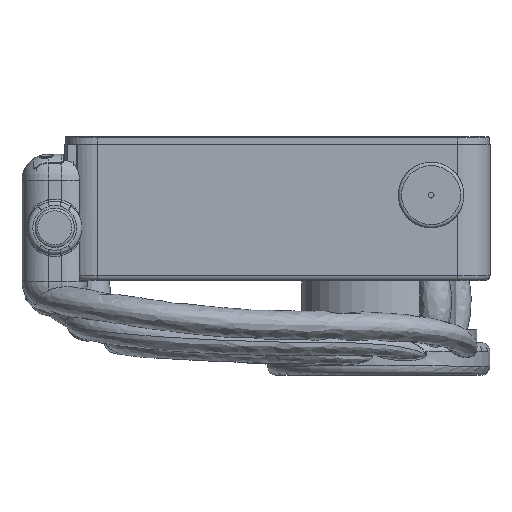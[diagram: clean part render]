
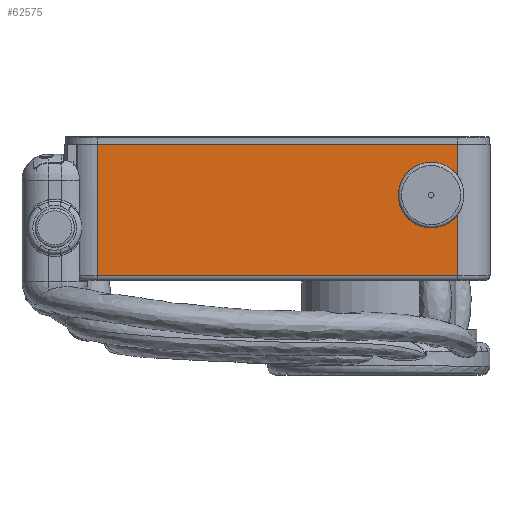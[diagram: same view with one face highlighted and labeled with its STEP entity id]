
A CAD part, top view. The second image highlights one B-rep face of the part: STEP entity #62575.
In plain terms, the highlighted planar face has unit normal (0, 0, 1).
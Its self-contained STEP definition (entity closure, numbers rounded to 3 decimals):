
#62575 = ADVANCED_FACE('',(#62576,#62695),#62590,.F.);
#62576 = FACE_BOUND('',#62577,.F.);
#62577 = EDGE_LOOP('',(#62578,#62613,#62641,#62669));
#62578 = ORIENTED_EDGE('',*,*,#62579,.T.);
#62579 = EDGE_CURVE('',#62580,#62582,#62584,.T.);
#62580 = VERTEX_POINT('',#62581);
#62581 = CARTESIAN_POINT('',(-55.,-14.6,83.));
#62582 = VERTEX_POINT('',#62583);
#62583 = CARTESIAN_POINT('',(-55.,25.5,83.));
#62584 = SURFACE_CURVE('',#62585,(#62589,#62601),.PCURVE_S1.);
#62585 = LINE('',#62586,#62587);
#62586 = CARTESIAN_POINT('',(-55.,-16.,83.));
#62587 = VECTOR('',#62588,1.);
#62588 = DIRECTION('',(0.,1.,0.));
#62589 = PCURVE('',#62590,#62595);
#62590 = PLANE('',#62591);
#62591 = AXIS2_PLACEMENT_3D('',#62592,#62593,#62594);
#62592 = CARTESIAN_POINT('',(-65.,-16.,83.));
#62593 = DIRECTION('',(0.,0.,-1.));
#62594 = DIRECTION('',(1.,0.,0.));
#62595 = DEFINITIONAL_REPRESENTATION('',(#62596),#62600);
#62596 = LINE('',#62597,#62598);
#62597 = CARTESIAN_POINT('',(10.,0.));
#62598 = VECTOR('',#62599,1.);
#62599 = DIRECTION('',(0.,-1.));
#62600 = ( GEOMETRIC_REPRESENTATION_CONTEXT(2) 
PARAMETRIC_REPRESENTATION_CONTEXT() REPRESENTATION_CONTEXT('2D SPACE',''
  ) );
#62601 = PCURVE('',#62602,#62607);
#62602 = CYLINDRICAL_SURFACE('',#62603,10.);
#62603 = AXIS2_PLACEMENT_3D('',#62604,#62605,#62606);
#62604 = CARTESIAN_POINT('',(-55.,-16.,73.));
#62605 = DIRECTION('',(0.,1.,0.));
#62606 = DIRECTION('',(0.,-0.,1.));
#62607 = DEFINITIONAL_REPRESENTATION('',(#62608),#62612);
#62608 = LINE('',#62609,#62610);
#62609 = CARTESIAN_POINT('',(6.283,0.));
#62610 = VECTOR('',#62611,1.);
#62611 = DIRECTION('',(-0.,1.));
#62612 = ( GEOMETRIC_REPRESENTATION_CONTEXT(2) 
PARAMETRIC_REPRESENTATION_CONTEXT() REPRESENTATION_CONTEXT('2D SPACE',''
  ) );
#62613 = ORIENTED_EDGE('',*,*,#62614,.T.);
#62614 = EDGE_CURVE('',#62582,#62615,#62617,.T.);
#62615 = VERTEX_POINT('',#62616);
#62616 = CARTESIAN_POINT('',(55.,25.5,83.));
#62617 = SURFACE_CURVE('',#62618,(#62622,#62629),.PCURVE_S1.);
#62618 = LINE('',#62619,#62620);
#62619 = CARTESIAN_POINT('',(-65.,25.5,83.));
#62620 = VECTOR('',#62621,1.);
#62621 = DIRECTION('',(1.,0.,0.));
#62622 = PCURVE('',#62590,#62623);
#62623 = DEFINITIONAL_REPRESENTATION('',(#62624),#62628);
#62624 = LINE('',#62625,#62626);
#62625 = CARTESIAN_POINT('',(0.,-41.5));
#62626 = VECTOR('',#62627,1.);
#62627 = DIRECTION('',(1.,0.));
#62628 = ( GEOMETRIC_REPRESENTATION_CONTEXT(2) 
PARAMETRIC_REPRESENTATION_CONTEXT() REPRESENTATION_CONTEXT('2D SPACE',''
  ) );
#62629 = PCURVE('',#62630,#62635);
#62630 = PLANE('',#62631);
#62631 = AXIS2_PLACEMENT_3D('',#62632,#62633,#62634);
#62632 = CARTESIAN_POINT('',(0.,25.5,44.));
#62633 = DIRECTION('',(0.,1.,0.));
#62634 = DIRECTION('',(0.,-0.,1.));
#62635 = DEFINITIONAL_REPRESENTATION('',(#62636),#62640);
#62636 = LINE('',#62637,#62638);
#62637 = CARTESIAN_POINT('',(39.,-65.));
#62638 = VECTOR('',#62639,1.);
#62639 = DIRECTION('',(0.,1.));
#62640 = ( GEOMETRIC_REPRESENTATION_CONTEXT(2) 
PARAMETRIC_REPRESENTATION_CONTEXT() REPRESENTATION_CONTEXT('2D SPACE',''
  ) );
#62641 = ORIENTED_EDGE('',*,*,#62642,.F.);
#62642 = EDGE_CURVE('',#62643,#62615,#62645,.T.);
#62643 = VERTEX_POINT('',#62644);
#62644 = CARTESIAN_POINT('',(55.,-14.6,83.));
#62645 = SURFACE_CURVE('',#62646,(#62650,#62657),.PCURVE_S1.);
#62646 = LINE('',#62647,#62648);
#62647 = CARTESIAN_POINT('',(55.,-16.,83.));
#62648 = VECTOR('',#62649,1.);
#62649 = DIRECTION('',(0.,1.,0.));
#62650 = PCURVE('',#62590,#62651);
#62651 = DEFINITIONAL_REPRESENTATION('',(#62652),#62656);
#62652 = LINE('',#62653,#62654);
#62653 = CARTESIAN_POINT('',(120.,0.));
#62654 = VECTOR('',#62655,1.);
#62655 = DIRECTION('',(0.,-1.));
#62656 = ( GEOMETRIC_REPRESENTATION_CONTEXT(2) 
PARAMETRIC_REPRESENTATION_CONTEXT() REPRESENTATION_CONTEXT('2D SPACE',''
  ) );
#62657 = PCURVE('',#62658,#62663);
#62658 = CYLINDRICAL_SURFACE('',#62659,10.);
#62659 = AXIS2_PLACEMENT_3D('',#62660,#62661,#62662);
#62660 = CARTESIAN_POINT('',(55.,-16.,73.));
#62661 = DIRECTION('',(0.,1.,0.));
#62662 = DIRECTION('',(0.,-0.,1.));
#62663 = DEFINITIONAL_REPRESENTATION('',(#62664),#62668);
#62664 = LINE('',#62665,#62666);
#62665 = CARTESIAN_POINT('',(0.,0.));
#62666 = VECTOR('',#62667,1.);
#62667 = DIRECTION('',(0.,1.));
#62668 = ( GEOMETRIC_REPRESENTATION_CONTEXT(2) 
PARAMETRIC_REPRESENTATION_CONTEXT() REPRESENTATION_CONTEXT('2D SPACE',''
  ) );
#62669 = ORIENTED_EDGE('',*,*,#62670,.F.);
#62670 = EDGE_CURVE('',#62580,#62643,#62671,.T.);
#62671 = SURFACE_CURVE('',#62672,(#62676,#62683),.PCURVE_S1.);
#62672 = LINE('',#62673,#62674);
#62673 = CARTESIAN_POINT('',(-55.,-14.6,83.));
#62674 = VECTOR('',#62675,1.);
#62675 = DIRECTION('',(1.,0.,0.));
#62676 = PCURVE('',#62590,#62677);
#62677 = DEFINITIONAL_REPRESENTATION('',(#62678),#62682);
#62678 = LINE('',#62679,#62680);
#62679 = CARTESIAN_POINT('',(10.,-1.4));
#62680 = VECTOR('',#62681,1.);
#62681 = DIRECTION('',(1.,0.));
#62682 = ( GEOMETRIC_REPRESENTATION_CONTEXT(2) 
PARAMETRIC_REPRESENTATION_CONTEXT() REPRESENTATION_CONTEXT('2D SPACE',''
  ) );
#62683 = PCURVE('',#62684,#62689);
#62684 = CYLINDRICAL_SURFACE('',#62685,1.4);
#62685 = AXIS2_PLACEMENT_3D('',#62686,#62687,#62688);
#62686 = CARTESIAN_POINT('',(-55.,-14.6,81.6));
#62687 = DIRECTION('',(1.,0.,0.));
#62688 = DIRECTION('',(0.,-0.,1.));
#62689 = DEFINITIONAL_REPRESENTATION('',(#62690),#62694);
#62690 = LINE('',#62691,#62692);
#62691 = CARTESIAN_POINT('',(0.,0.));
#62692 = VECTOR('',#62693,1.);
#62693 = DIRECTION('',(0.,1.));
#62694 = ( GEOMETRIC_REPRESENTATION_CONTEXT(2) 
PARAMETRIC_REPRESENTATION_CONTEXT() REPRESENTATION_CONTEXT('2D SPACE',''
  ) );
#62695 = FACE_BOUND('',#62696,.F.);
#62696 = EDGE_LOOP('',(#62697));
#62697 = ORIENTED_EDGE('',*,*,#62698,.F.);
#62698 = EDGE_CURVE('',#62699,#62699,#62701,.T.);
#62699 = VERTEX_POINT('',#62700);
#62700 = CARTESIAN_POINT('',(50.3,10.,83.));
#62701 = SURFACE_CURVE('',#62702,(#62707,#62714),.PCURVE_S1.);
#62702 = CIRCLE('',#62703,3.3);
#62703 = AXIS2_PLACEMENT_3D('',#62704,#62705,#62706);
#62704 = CARTESIAN_POINT('',(47.,10.,83.));
#62705 = DIRECTION('',(0.,0.,-1.));
#62706 = DIRECTION('',(1.,0.,0.));
#62707 = PCURVE('',#62590,#62708);
#62708 = DEFINITIONAL_REPRESENTATION('',(#62709),#62713);
#62709 = CIRCLE('',#62710,3.3);
#62710 = AXIS2_PLACEMENT_2D('',#62711,#62712);
#62711 = CARTESIAN_POINT('',(112.,-26.));
#62712 = DIRECTION('',(1.,0.));
#62713 = ( GEOMETRIC_REPRESENTATION_CONTEXT(2) 
PARAMETRIC_REPRESENTATION_CONTEXT() REPRESENTATION_CONTEXT('2D SPACE',''
  ) );
#62714 = PCURVE('',#62715,#62720);
#62715 = CYLINDRICAL_SURFACE('',#62716,3.3);
#62716 = AXIS2_PLACEMENT_3D('',#62717,#62718,#62719);
#62717 = CARTESIAN_POINT('',(47.,10.,77.));
#62718 = DIRECTION('',(-0.,-0.,-1.));
#62719 = DIRECTION('',(1.,0.,0.));
#62720 = DEFINITIONAL_REPRESENTATION('',(#62721),#62725);
#62721 = LINE('',#62722,#62723);
#62722 = CARTESIAN_POINT('',(0.,-6.));
#62723 = VECTOR('',#62724,1.);
#62724 = DIRECTION('',(1.,-0.));
#62725 = ( GEOMETRIC_REPRESENTATION_CONTEXT(2) 
PARAMETRIC_REPRESENTATION_CONTEXT() REPRESENTATION_CONTEXT('2D SPACE',''
  ) );
